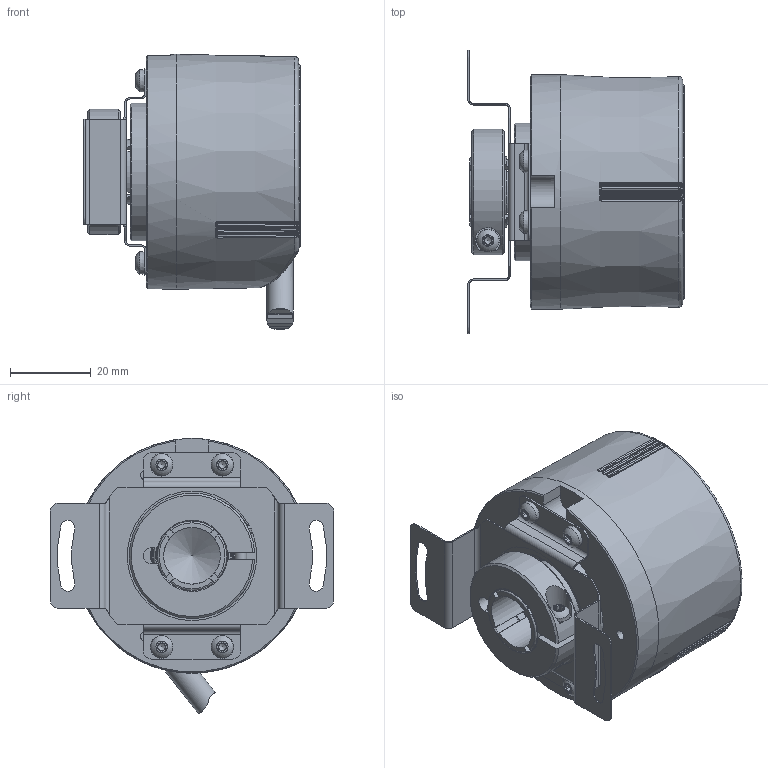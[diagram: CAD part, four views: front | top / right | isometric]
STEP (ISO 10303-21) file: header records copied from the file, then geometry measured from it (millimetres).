
FILE_DESCRIPTION( ( 'Unknown' ), '1' );
FILE_NAME( '//emea.baumernet.org/de05d/RD/caddy/k/GESAMT/EIL580/EIL580/3D/STEP/MarCom/EIL580-BT14.5Px.xxxxx.A.stp', 'Unknown', ( 'Unknown' ), ( 'Unknown' ), 'PSStep 19.0.9', 'Unknown', ' ' );
FILE_SCHEMA( ( 'AUTOMOTIVE_DESIGN { 1 0 10303 214 1 1 1 1 }' ) );
Length unit declared in the file: millimetre
Products named in the file (2): Assem1; 1_43
Assembly tree (1 placements, depth 2):
  Assem1
    1_43
Bounding box: 53.5 x 70 x 67.97 mm (x, y, z)
Volume: 100065.3 mm3; surface area: 24257.1 mm2
Topology: 1 solids, 12 shells, 721 faces, 1783 edges, 1080 vertices
Faces by surface type: cylinder 278, plane 209, bspline 118, cone 50, torus 36, sphere 30
Full cylindrical faces by diameter (mm): 2.46 x15, 2.998 x1, 3 x4, 3.2 x5, 4 x1, 5.5 x1, 6.5 x1, 6.97 x2, 7 x1, 7.7 x1, 8.5 x1, 9 x1, 12.2 x1, 14 x1, 16.8 x1, 19 x2, 19.312 x1, 22 x1, 23.904 x1, 25.2 x1, 26 x1, 32 x1, 34 x1, 58 x1
Entity records: 62246 total; most frequent: CARTESIAN_POINT 40923, ORIENTED_EDGE 3288, DIRECTION 3066, EDGE_CURVE 1644, AXIS2_PLACEMENT_3D 1326, VERTEX_POINT 1059, EDGE_LOOP 867, FACE_OUTER_BOUND 782
